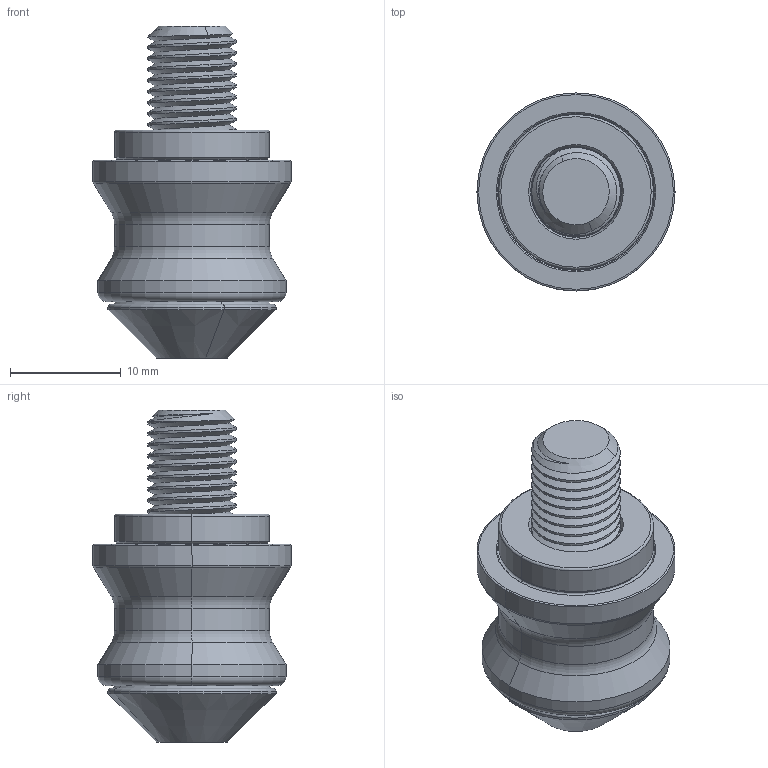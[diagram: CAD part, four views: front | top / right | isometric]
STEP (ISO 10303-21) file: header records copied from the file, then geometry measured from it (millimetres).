
FILE_DESCRIPTION (( 'STEP AP214' ), '1' );
FILE_NAME ('SJJT-5.STEP', '2021-11-11T04:03:08', ( '' ), ( '' ), 'SwSTEP 2.0', 'SolidWorks 2018', '' );
FILE_SCHEMA (( 'AUTOMOTIVE_DESIGN' ));
Length unit declared in the file: millimetre
Products named in the file (5): SJJT-5.STEP; JGLS-5.STEP.STEP; DWJT-5.STEP.STEP; ____.STEP.STEP; SJJT-5
Assembly tree (4 placements, depth 4):
  SJJT-5
    SJJT-5.STEP
      DWJT-5.STEP.STEP
        ____.STEP.STEP
        JGLS-5.STEP.STEP
Bounding box: 17.9 x 17.9 x 30 mm (x, y, z)
Volume: 3705.1 mm3; surface area: 2864.6 mm2
Topology: 2 solids, 2 shells, 97 faces, 225 edges, 134 vertices
Faces by surface type: cylinder 40, cone 21, torus 20, plane 14, bspline 2
Entity records: 4507 total; most frequent: CARTESIAN_POINT 2261, DIRECTION 462, ORIENTED_EDGE 446, EDGE_CURVE 223, AXIS2_PLACEMENT_3D 190, VERTEX_POINT 134, EDGE_LOOP 103, FACE_OUTER_BOUND 97
